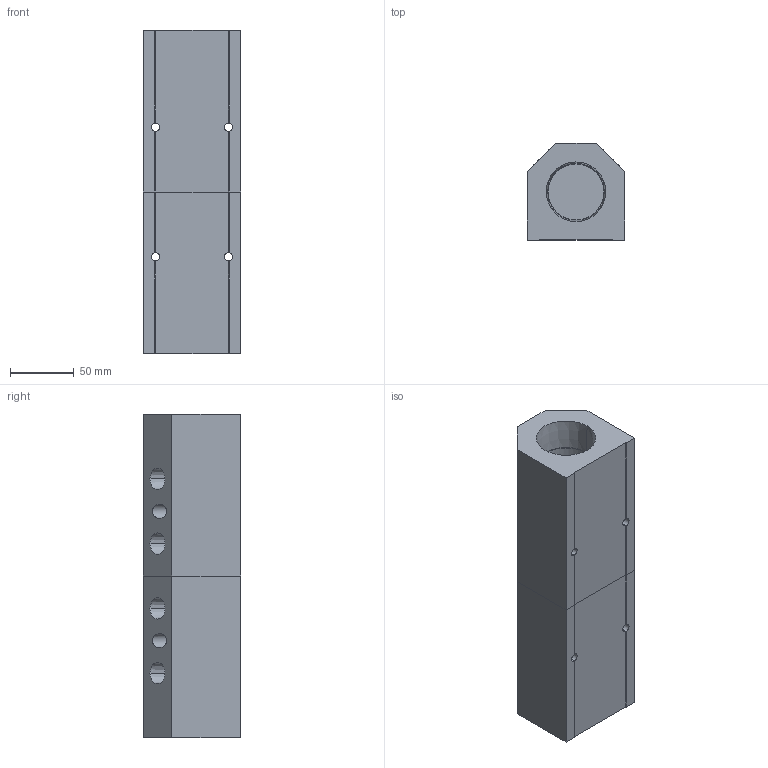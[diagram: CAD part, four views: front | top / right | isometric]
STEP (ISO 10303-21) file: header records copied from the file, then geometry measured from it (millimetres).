
FILE_DESCRIPTION (( 'STEP AP214' ), '1' );
FILE_NAME ('ALM4BD-N6N24-254RB.step', '2022-02-07T09:15:59', ( '' ), ( '' ), 'SwSTEP 2.0', 'SolidWorks 2020', '' );
FILE_SCHEMA (( 'AUTOMOTIVE_DESIGN' ));
Length unit declared in the file: millimetre
Products named in the file (1): ALM4BD-N6N24-254RB
Bounding box: 76.2 x 76.2 x 254 mm (x, y, z)
Volume: 914776.2 mm3; surface area: 135947.1 mm2
Topology: 2 solids, 2 shells, 358 faces, 937 edges, 622 vertices
Faces by surface type: plane 256, bspline 62, cone 20, cylinder 20
Entity records: 18959 total; most frequent: CARTESIAN_POINT 7176, ORIENTED_EDGE 1874, DIRECTION 1431, EDGE_CURVE 937, LINE 725, VECTOR 725, VERTEX_POINT 622, EDGE_LOOP 421
